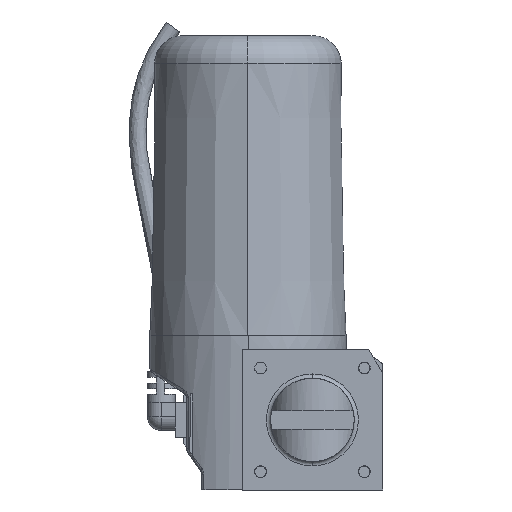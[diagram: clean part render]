
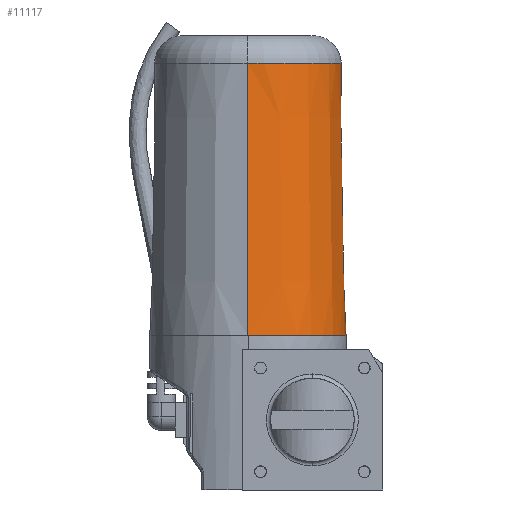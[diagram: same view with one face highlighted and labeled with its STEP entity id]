
A CAD part, left-side view. The second image highlights one B-rep face of the part: STEP entity #11117.
In plain terms, the highlighted conical face has half-angle 1 degrees and reference radius 34.152 mm.
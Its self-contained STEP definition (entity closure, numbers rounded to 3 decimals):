
#11001=CARTESIAN_POINT('',(0.,107.,0.));
#11002=DIRECTION('',(0.,-1.,0.));
#11003=DIRECTION('',(-1.,0.,0.));
#11004=AXIS2_PLACEMENT_3D('',#11001,#11002,#11003);
#11011=DIRECTION('',(0.017,-1.,0.));
#11012=VECTOR('',#11011,97.189);
#11013=CARTESIAN_POINT('',(-35.,107.,0.));
#11014=LINE('',#11013,#11012);
#11015=CARTESIAN_POINT('',(0.,9.825,0.));
#11016=DIRECTION('',(0.,1.,0.));
#11017=DIRECTION('',(1.,0.,0.));
#11018=AXIS2_PLACEMENT_3D('',#11015,#11016,#11017);
#11020=CARTESIAN_POINT('',(0.,9.825,0.));
#11021=DIRECTION('',(0.,1.,0.));
#11022=DIRECTION('',(1.,0.,-0.009));
#11023=AXIS2_PLACEMENT_3D('',#11020,#11021,#11022);
#11065=DIRECTION('',(-0.017,-1.,0.));
#11066=VECTOR('',#11065,97.189);
#11067=CARTESIAN_POINT('',(35.,107.,0.));
#11068=LINE('',#11067,#11066);
#11069=CARTESIAN_POINT('',(-35.,107.,0.));
#11070=CARTESIAN_POINT('',(35.,107.,0.));
#11071=VERTEX_POINT('',#11069);
#11072=VERTEX_POINT('',#11070);
#11073=CARTESIAN_POINT('',(33.302,9.825,
-0.311));
#11074=CARTESIAN_POINT('',(-33.304,9.825,
0.));
#11075=VERTEX_POINT('',#11073);
#11076=VERTEX_POINT('',#11074);
#11077=CARTESIAN_POINT('',(33.304,9.825,0.));
#11078=VERTEX_POINT('',#11077);
#11101=CARTESIAN_POINT('',(0.,58.413,0.));
#11102=DIRECTION('',(0.,1.,0.));
#11103=DIRECTION('',(1.,0.,0.));
#11104=AXIS2_PLACEMENT_3D('',#11101,#11102,#11103);
#11105=CONICAL_SURFACE('',#11104,34.152,1.);
#11107=ORIENTED_EDGE('',*,*,#11106,.F.);
#11109=ORIENTED_EDGE('',*,*,#11108,.F.);
#11111=ORIENTED_EDGE('',*,*,#11110,.F.);
#11112=ORIENTED_EDGE('',*,*,#11094,.F.);
#11114=ORIENTED_EDGE('',*,*,#11113,.T.);
#11115=EDGE_LOOP('',(#11107,#11109,#11111,#11112,#11114));
#11116=FACE_OUTER_BOUND('',#11115,.F.);
#11117=ADVANCED_FACE('',(#11116),#11105,.T.);
#11005=CIRCLE('',#11004,35.);
#11019=CIRCLE('',#11018,33.304);
#11024=CIRCLE('',#11023,33.304);
#11094=EDGE_CURVE('',#11071,#11072,#11005,.T.);
#11106=EDGE_CURVE('',#11075,#11076,#11024,.T.);
#11108=EDGE_CURVE('',#11078,#11075,#11019,.T.);
#11110=EDGE_CURVE('',#11072,#11078,#11068,.T.);
#11113=EDGE_CURVE('',#11071,#11076,#11014,.T.);
